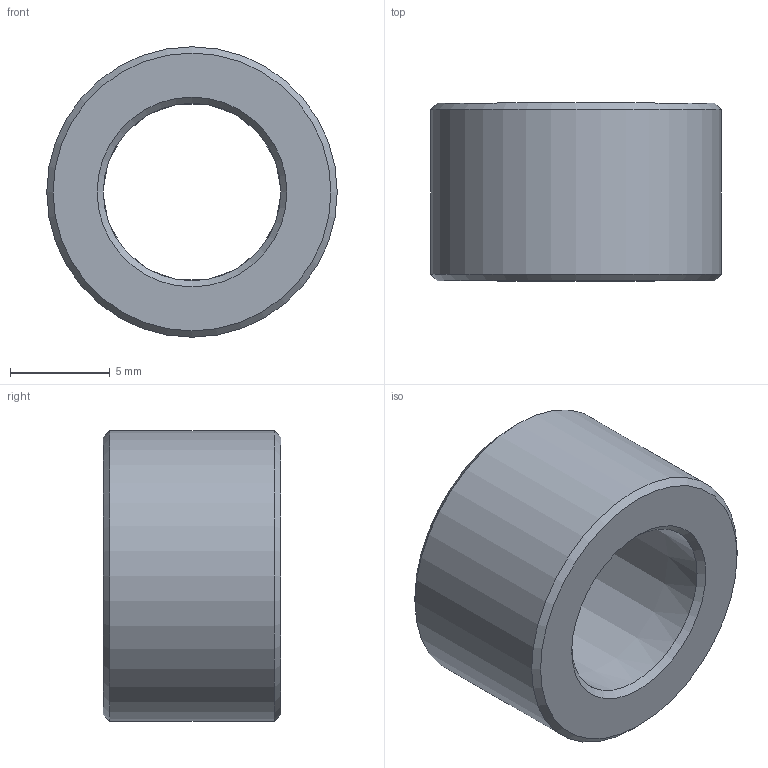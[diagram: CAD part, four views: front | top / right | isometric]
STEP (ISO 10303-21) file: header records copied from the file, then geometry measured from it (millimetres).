
FILE_DESCRIPTION(/* description */ (''),/* implementation_level */ '2;1');
FILE_NAME(/* name */ 'BNG-18-NPT-MS.stp',/* time_stamp */ '2023-04-27T10:52:41-04:00',/* author */ ('Justin'),/* organization */ (''),/* preprocessor_version */ 'ST-DEVELOPER v19.2',/* originating_system */ 'Autodesk Inventor 2024',/* authorisation */ '');
FILE_SCHEMA (('AUTOMOTIVE_DESIGN { 1 0 10303 214 3 1 1 }'));
Length unit declared in the file: inch
Products named in the file (1): BNG-18-NPT-SS
Bounding box: 14.58 x 8.92 x 14.58 mm (x, y, z)
Volume: 911.6 mm3; surface area: 839.5 mm2
Topology: 1 solids, 1 shells, 8 faces, 16 edges, 10 vertices
Faces by surface type: cone 5, plane 2, cylinder 1
Full cylindrical faces by diameter (mm): 14.58 x1
Entity records: 272 total; most frequent: DIRECTION 44, CARTESIAN_POINT 35, ORIENTED_EDGE 32, AXIS2_PLACEMENT_3D 19, EDGE_CURVE 16, EDGE_LOOP 10, CIRCLE 10, VERTEX_POINT 10
